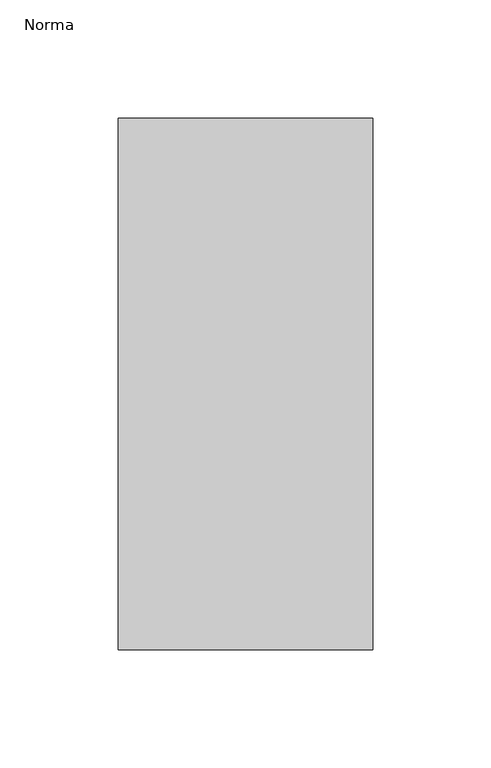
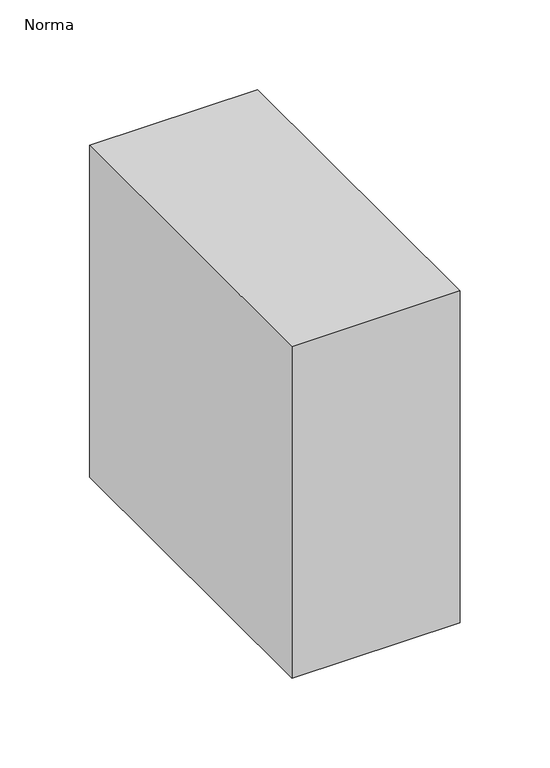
"""IFC4 building model written with IfcOpenShell, lengths in millimetres: duct fitting geometry, M_Toma de derivación rectangular : Norma."""

from ifc_helpers import new_model, si_unit, frame, origin, place, context, project, spatial, polyline, outline, extrude, source, transform, mapped, element, save


def norma_0cd4d4be(model_context):
    return source(origin(), model_context, "Body", "SweptSolid", [
        extrude(outline(polyline([(-6.096, 112.5), (101.6, 112.5), (101.6, -112.5), (-6.096, -112.5), (-6.096, 112.5)])), frame((0.0, 0.0, -112.5), z_axis=(0.0, 0.0, 1.0), x_axis=(1.0, 0.0, 0.0)), (0.0, 0.0, 1.0), 225.0),
    ])


if __name__ == "__main__":
    model = new_model("IFC4")
    model_context = context("Model", 3, world=origin())
    ifc_project = project(units=[si_unit("LENGTHUNIT", "METRE", prefix="MILLI")], contexts=[model_context])
    site = spatial("IfcSite", under=ifc_project)
    building = spatial("IfcBuilding", under=site)
    placement = place(None, origin())
    norma_shape = norma_0cd4d4be(model_context)
    element("IfcDuctFitting", 1, ObjectType="M_Toma de derivación rectangular : Norma", at=placement, inside=building, context=model_context, shape_type="MappedRepresentation", body=[
        mapped(norma_shape, transform((0.0, 0.0, 0.0), x_axis=(1.0, 0.0, 0.0), y_axis=(0.0, 1.0, 0.0), z_axis=(0.0, 0.0, 1.0))),
    ])
    save(model, "model.ifc")
